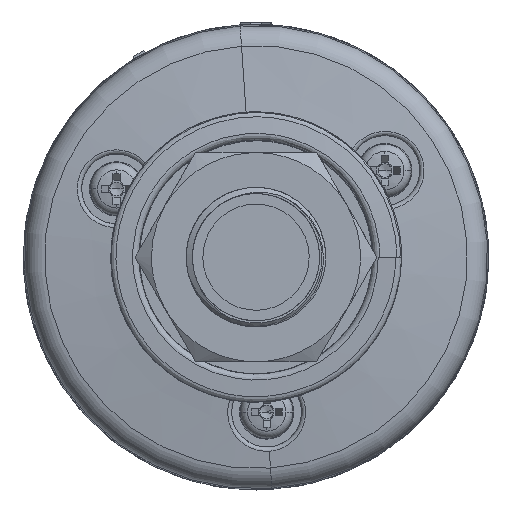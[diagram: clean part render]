
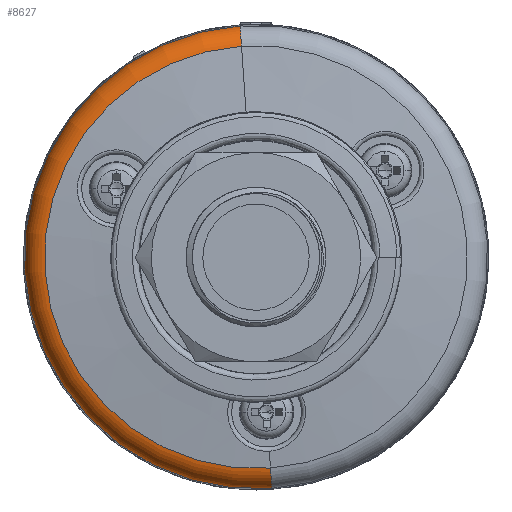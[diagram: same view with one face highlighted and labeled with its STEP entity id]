
A CAD part, front view. The second image highlights one B-rep face of the part: STEP entity #8627.
In plain terms, the highlighted toroidal (fillet/blend) face has major radius 26.863 mm and minor radius 3 mm.
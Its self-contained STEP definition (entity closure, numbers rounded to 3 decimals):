
#1759 = CARTESIAN_POINT ( 'NONE',  ( -1.868, 8.361, -101.103 ) ) ;
#2756 = CARTESIAN_POINT ( 'NONE',  ( 2.221, 8.361, -160.687 ) ) ;
#3375 = DIRECTION ( 'NONE',  ( -0.998, 0., -0.068 ) ) ;
#3594 = DIRECTION ( 'NONE',  ( 0., 1., 0. ) ) ;
#3806 = DIRECTION ( 'NONE',  ( 0., 1., 0. ) ) ;
#4167 = AXIS2_PLACEMENT_3D ( 'NONE', #4222, #10312, #5912 ) ;
#4222 = CARTESIAN_POINT ( 'NONE',  ( 0.177, 5.451, -130.895 ) ) ;
#4350 = CARTESIAN_POINT ( 'NONE',  ( 2.016, 8.427, -157.695 ) ) ;
#4380 = CARTESIAN_POINT ( 'NONE',  ( -1.663, 8.427, -104.095 ) ) ;
#5525 = DIRECTION ( 'NONE',  ( -0.068, 0., 0.998 ) ) ;
#5556 = CIRCLE ( 'NONE', #12910, 3. ) ;
#5912 = DIRECTION ( 'NONE',  ( -0.068, 0., 0.998 ) ) ;
#6773 = CARTESIAN_POINT ( 'NONE',  ( 0.177, 8.427, -130.895 ) ) ;
#6968 = DIRECTION ( 'NONE',  ( -0.068, 0., 0.998 ) ) ;
#7156 = EDGE_CURVE ( 'NONE', #11915, #14190, #5556, .T. ) ;
#8037 = AXIS2_PLACEMENT_3D ( 'NONE', #4350, #9147, #19628 ) ;
#8163 = VERTEX_POINT ( 'NONE', #16595 ) ;
#8221 = CARTESIAN_POINT ( 'NONE',  ( -1.689, 5.451, -103.717 ) ) ;
#8627 = ADVANCED_FACE ( 'NONE', ( #15970 ), #12594, .T. ) ;
#9147 = DIRECTION ( 'NONE',  ( 0.998, 0., 0.068 ) ) ;
#9384 = ORIENTED_EDGE ( 'NONE', *, *, #7156, .T. ) ;
#10191 = DIRECTION ( 'NONE',  ( -0.068, 0., 0.998 ) ) ;
#10312 = DIRECTION ( 'NONE',  ( 0., 1., 0. ) ) ;
#10513 = EDGE_LOOP ( 'NONE', ( #12198, #12528, #9384, #17041 ) ) ;
#10865 = CIRCLE ( 'NONE', #4167, 27.241 ) ;
#11621 = VERTEX_POINT ( 'NONE', #2756 ) ;
#11704 = EDGE_CURVE ( 'NONE', #8163, #11621, #18248, .T. ) ;
#11915 = VERTEX_POINT ( 'NONE', #8221 ) ;
#12198 = ORIENTED_EDGE ( 'NONE', *, *, #11704, .F. ) ;
#12528 = ORIENTED_EDGE ( 'NONE', *, *, #18794, .T. ) ;
#12594 = TOROIDAL_SURFACE ( 'NONE', #14213, 26.863, 3. ) ;
#12735 = EDGE_CURVE ( 'NONE', #11621, #14190, #14699, .T. ) ;
#12910 = AXIS2_PLACEMENT_3D ( 'NONE', #4380, #3375, #5525 ) ;
#14190 = VERTEX_POINT ( 'NONE', #1759 ) ;
#14213 = AXIS2_PLACEMENT_3D ( 'NONE', #6773, #3594, #6968 ) ;
#14699 = CIRCLE ( 'NONE', #18840, 29.862 ) ;
#14791 = CARTESIAN_POINT ( 'NONE',  ( 0.177, 8.361, -130.895 ) ) ;
#15970 = FACE_OUTER_BOUND ( 'NONE', #10513, .T. ) ;
#16595 = CARTESIAN_POINT ( 'NONE',  ( 2.042, 5.451, -158.072 ) ) ;
#17041 = ORIENTED_EDGE ( 'NONE', *, *, #12735, .F. ) ;
#18248 = CIRCLE ( 'NONE', #8037, 3. ) ;
#18794 = EDGE_CURVE ( 'NONE', #8163, #11915, #10865, .T. ) ;
#18840 = AXIS2_PLACEMENT_3D ( 'NONE', #14791, #3806, #10191 ) ;
#19628 = DIRECTION ( 'NONE',  ( 0.068, 0., -0.998 ) ) ;
